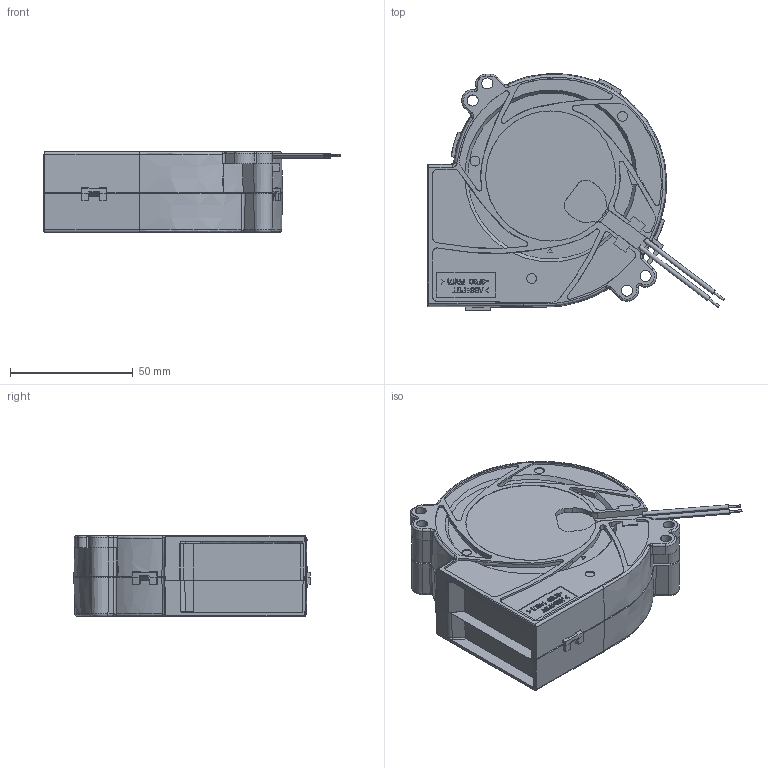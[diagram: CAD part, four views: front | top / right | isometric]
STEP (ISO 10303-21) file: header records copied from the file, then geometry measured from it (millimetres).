
FILE_DESCRIPTION((''),'2;1');
FILE_NAME('9733-ZHENG_ID11_X_T_1','2026-07-24T16:40:10',('pc'),(''),'CREO PARAMETRIC BY PTC INC, 2018050','CREO PARAMETRIC BY PTC INC, 2018050','');
FILE_SCHEMA(('CONFIG_CONTROL_DESIGN','GEOMETRIC_VALIDATION_PROPERTIES_MIM'));
Products named in the file (1): 9733-ZHENG_ID11_X_T_1
Bounding box: 120.86 x 96.37 x 32.9 mm (x, y, z)
Volume: 220795 mm3; surface area: 45101.4 mm2
Topology: 5 solids, 6 shells, 1667 faces, 4627 edges, 3051 vertices
Faces by surface type: plane 1385, cone 92, cylinder 87, bspline 62, extrusion 23, torus 18
Entity records: 57172 total; most frequent: CARTESIAN_POINT 15158, ORIENTED_EDGE 9254, DIRECTION 7650, EDGE_CURVE 4627, VECTOR 3804, LINE 3781, VERTEX_POINT 3051, AXIS2_PLACEMENT_3D 1923
